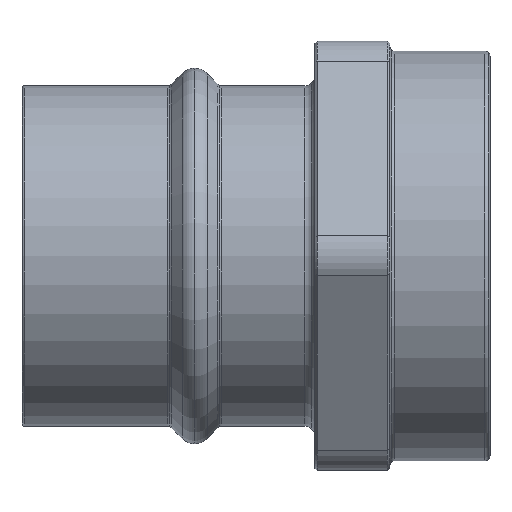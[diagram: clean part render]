
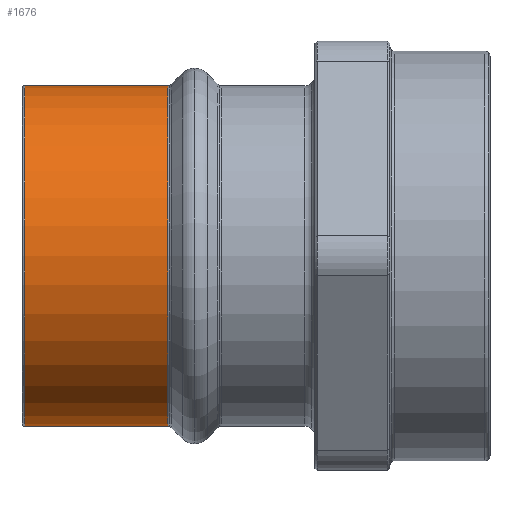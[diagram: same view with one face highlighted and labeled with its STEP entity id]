
A CAD part, top view. The second image highlights one B-rep face of the part: STEP entity #1676.
In plain terms, the highlighted cylindrical face has radius 34.252 mm (diameter 68.504 mm), a partial arc.
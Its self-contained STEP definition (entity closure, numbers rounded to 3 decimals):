
#356=DIRECTION('',(-1.,0.,0.));
#357=VECTOR('',#356,28.848);
#358=CARTESIAN_POINT('',(28.344,34.252,0.));
#359=LINE('',#358,#357);
#360=DIRECTION('',(-1.,0.,0.));
#361=VECTOR('',#360,28.848);
#362=CARTESIAN_POINT('',(28.344,-34.252,0.));
#363=LINE('',#362,#361);
#379=CARTESIAN_POINT('',(28.344,0.,0.));
#380=DIRECTION('',(1.,0.,0.));
#381=DIRECTION('',(0.,1.,0.));
#382=AXIS2_PLACEMENT_3D('',#379,#380,#381);
#384=CARTESIAN_POINT('',(-0.504,0.,0.));
#385=DIRECTION('',(-1.,0.,0.));
#386=DIRECTION('',(0.,-1.,0.));
#387=AXIS2_PLACEMENT_3D('',#384,#385,#386);
#1086=CARTESIAN_POINT('',(-0.504,-34.252,0.));
#1088=VERTEX_POINT('',#1086);
#1092=CARTESIAN_POINT('',(-0.504,34.252,0.));
#1093=VERTEX_POINT('',#1092);
#1098=CARTESIAN_POINT('',(28.344,-34.252,0.));
#1099=VERTEX_POINT('',#1098);
#1100=CARTESIAN_POINT('',(28.344,34.252,0.));
#1101=VERTEX_POINT('',#1100);
#1664=CARTESIAN_POINT('',(124.918,0.,0.));
#1665=DIRECTION('',(-1.,0.,0.));
#1666=DIRECTION('',(0.,-1.,0.));
#1667=AXIS2_PLACEMENT_3D('',#1664,#1665,#1666);
#1668=CYLINDRICAL_SURFACE('',#1667,34.252);
#1669=ORIENTED_EDGE('',*,*,#1655,.T.);
#1670=ORIENTED_EDGE('',*,*,#1630,.T.);
#1672=ORIENTED_EDGE('',*,*,#1671,.T.);
#1673=ORIENTED_EDGE('',*,*,#1627,.F.);
#1674=EDGE_LOOP('',(#1669,#1670,#1672,#1673));
#1675=FACE_OUTER_BOUND('',#1674,.F.);
#383=CIRCLE('',#382,34.252);
#388=CIRCLE('',#387,34.252);
#1627=EDGE_CURVE('',#1101,#1093,#359,.T.);
#1630=EDGE_CURVE('',#1099,#1088,#363,.T.);
#1655=EDGE_CURVE('',#1101,#1099,#383,.T.);
#1671=EDGE_CURVE('',#1088,#1093,#388,.T.);
#1676=ADVANCED_FACE('',(#1675),#1668,.T.);
